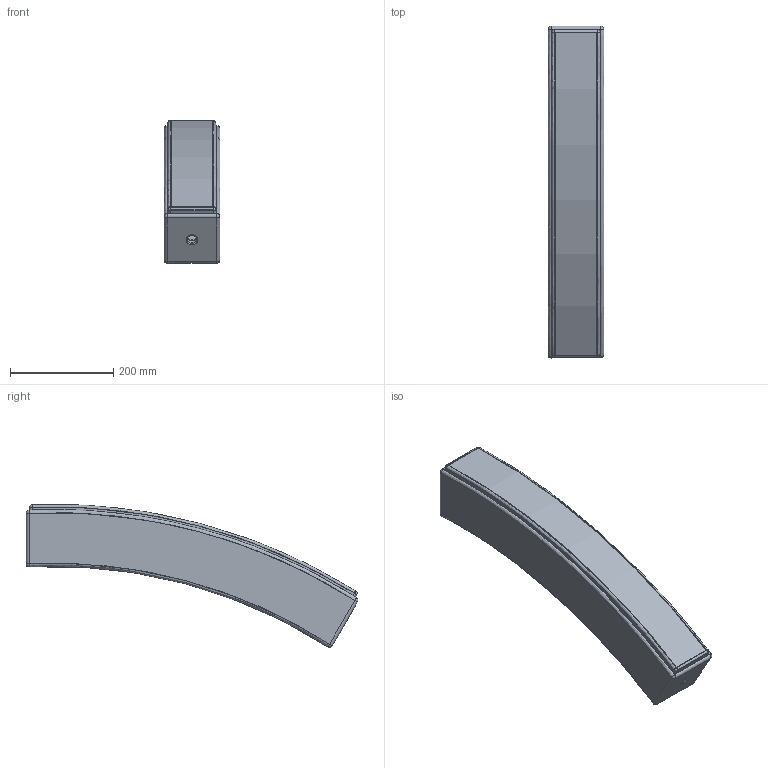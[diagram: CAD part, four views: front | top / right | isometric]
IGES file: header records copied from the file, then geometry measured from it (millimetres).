
Start section: SolidWorks IGES file using analytic representation for surfaces
Global section: file name: C:\Dokumente und Einstellungen\PC_Fabian\Desktop\SW-Konstruktionen Michl2010\L-Serie\L8c\Serie\Internet\SEEBURG_L8c.IGS; native system: SolidWorks 2009; preprocessor: SolidWorks 2009; author: PC_Fabian; date: 120926.113941; units: millimetre
Bounding box: 108 x 642.32 x 276.06 mm (x, y, z)
Surface area: 726254.7 mm2 (no closed solid volume)
Topology: 0 solids, 0 shells, 141 faces, 1712 edges, 1710 vertices
Faces by surface type: revolution 80, bspline 61
